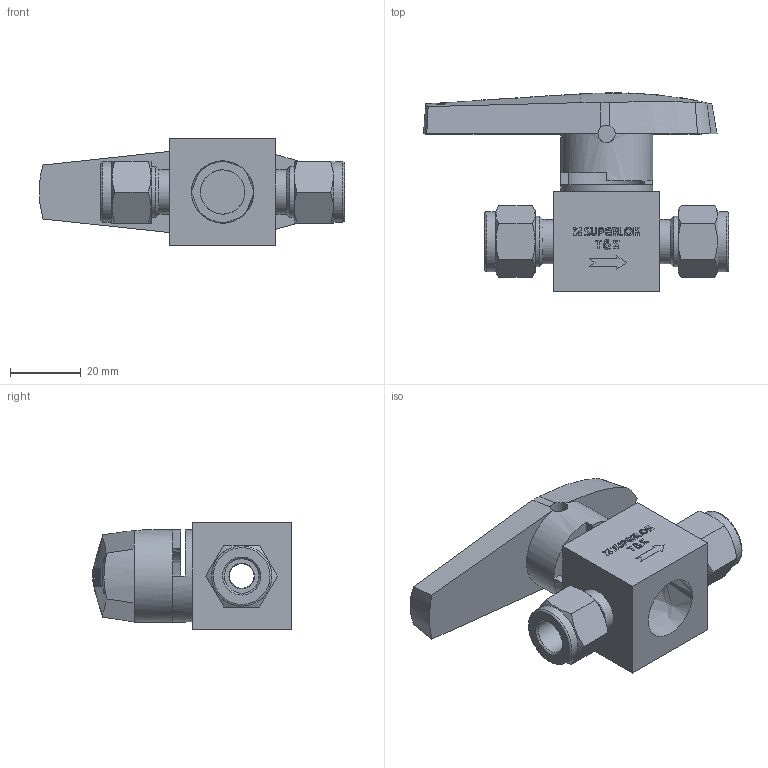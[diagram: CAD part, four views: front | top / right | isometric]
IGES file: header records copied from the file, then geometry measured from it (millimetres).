
Global section: file name: SPV132-S6; native system: Autodesk Inventor 2016; preprocessor: unknown; author: DESIGNPC2; date: 20160502.092817; units: millimetre
Bounding box: 86.14 x 56.05 x 30.01 mm (x, y, z)
Volume: 44551.6 mm3; surface area: 17048.5 mm2
Topology: 2 solids, 2 shells, 459 faces, 1235 edges, 826 vertices
Faces by surface type: bspline 459
